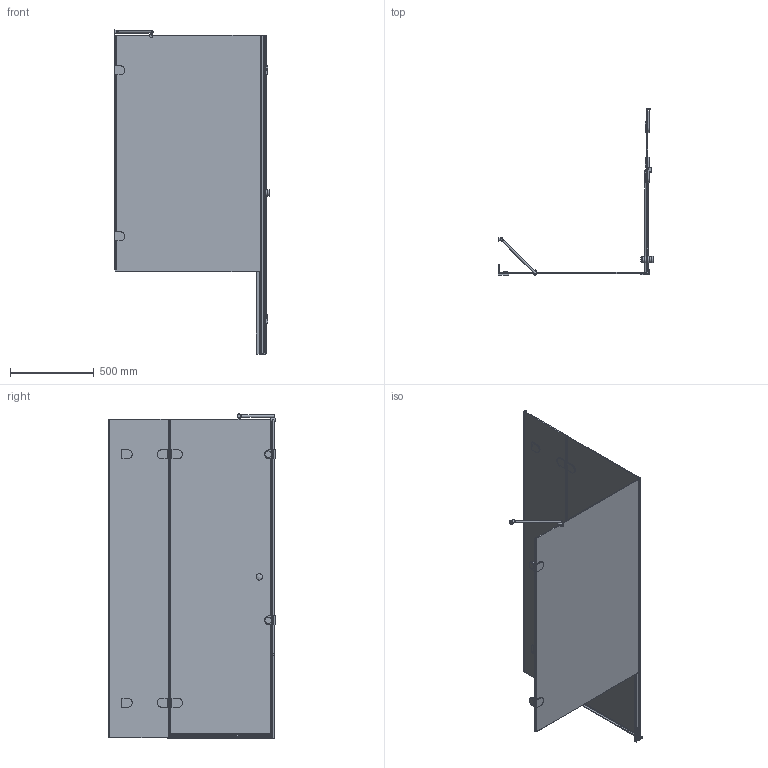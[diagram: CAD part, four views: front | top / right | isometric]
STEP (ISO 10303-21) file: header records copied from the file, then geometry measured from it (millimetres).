
FILE_DESCRIPTION(/* description */ (''),/* implementation_level */ '2;1');
FILE_NAME(/* name */ 'E:\Работа\Сергей\Душевые кабинки\! Работа\LUX SQUARE GK-003V-2522\LUX SQUARE GK-003V-2522 правая модель\LUX SQUARE GK-003V-2522 ПРАВАЯ-3D.stp',/* time_stamp */ '2017-06-05T20:43:58+03:00',/* author */ ('PC'),/* organization */ (''),/* preprocessor_version */ 'ST-DEVELOPER v15.2',/* originating_system */ 'Autodesk Inventor 2014',/* authorisation */ '');
FILE_SCHEMA (('AUTOMOTIVE_DESIGN { 1 0 10303 214 3 1 1 }'));
Length unit declared in the file: millimetre
Products named in the file (1): LUX SQUARE GK-003V-2522 ПРАВАЯ-
3D
Bounding box: 928 x 992.36 x 1931.5 mm (x, y, z)
Volume: 19709005.1 mm3; surface area: 6763983.8 mm2
Topology: 5 solids, 5 shells, 671 faces, 1755 edges, 1124 vertices
Faces by surface type: plane 457, cylinder 181, torus 16, bspline 8, sphere 7, cone 2
Full cylindrical faces by diameter (mm): 15 x1, 20 x2, 26 x1, 30 x2, 35 x2, 38 x4, 40 x2
Entity records: 21426 total; most frequent: CARTESIAN_POINT 4167, ORIENTED_EDGE 3444, DIRECTION 3401, EDGE_CURVE 1720, LINE 1267, VECTOR 1267, VERTEX_POINT 1115, AXIS2_PLACEMENT_3D 1067
